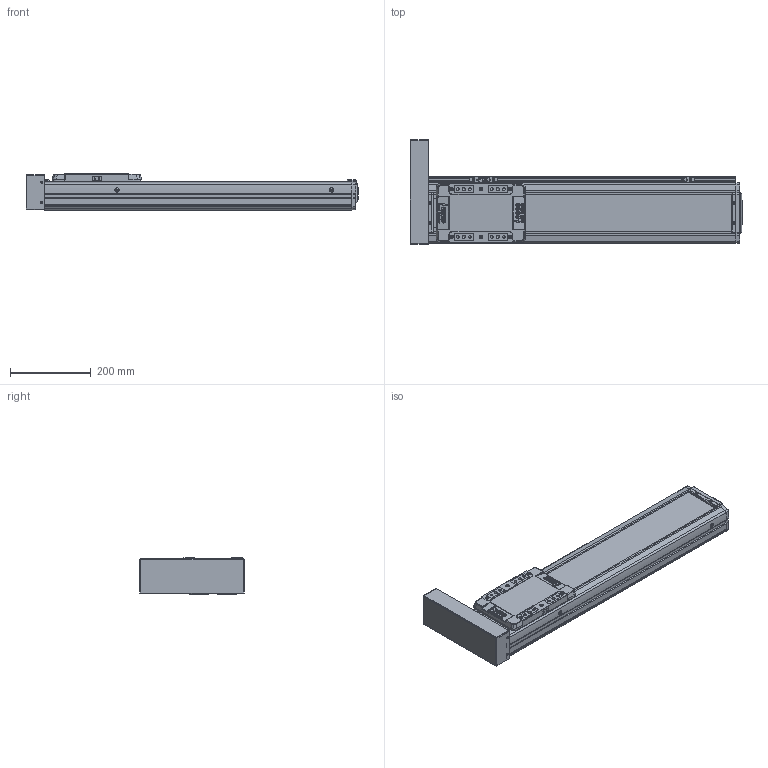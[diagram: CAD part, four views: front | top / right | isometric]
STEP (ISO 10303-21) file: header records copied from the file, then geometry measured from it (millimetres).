
FILE_DESCRIPTION(('STEP AP214'),'1');
FILE_NAME('Z:/Web/3D/SAN150/2013.04 (STP.)/SAN150ㅁㅁ-500PL+3SL.stp','2013-05-07T11:27:48',(' '),(' '),'Spatial InterOp 3D',' ',' ');
FILE_SCHEMA(('automotive_design'));
Length unit declared in the file: millimetre
Products named in the file (58): SLBL-SAN150; SLCV-SAN150; FHCS M4.0 x 8.0; BHCS M4.0 x 10.0; SFX-SAN150; RRCV-SAN150; FRBL-SAN150; Spacer; RN15; FRCV-SAN150; Screw 20; BASE-SAN150-000L ; SUS COVER; 스크루 : Round - M5.0 x 6.0; BHCS M3.0 x 6.0; P; M3.0 x 6.0; SRL-16x17-360L; SGD-SAN150; EE-SX674; SBK-SX674-352; 스크루 : Round - M3.0 x 6.0
Bounding box: 820 x 260.73 x 90 mm (x, y, z)
Volume: 5591880 mm3; surface area: 1028532.7 mm2
Topology: 58 solids, 58 shells, 2634 faces, 6773 edges, 4350 vertices
Faces by surface type: plane 1392, cylinder 855, cone 274, sphere 80, bspline 21, torus 12
Entity records: 104130 total; most frequent: CARTESIAN_POINT 16421, DIRECTION 14328, ORIENTED_EDGE 13314, EDGE_CURVE 6657, AXIS2_PLACEMENT_3D 5084, VERTEX_POINT 4350, LINE 4160, VECTOR 4160
